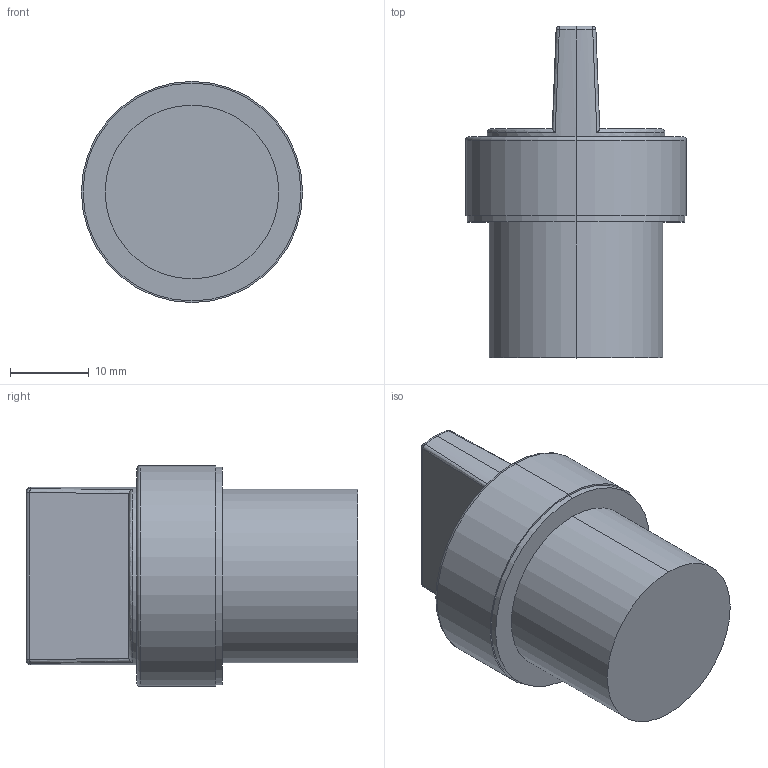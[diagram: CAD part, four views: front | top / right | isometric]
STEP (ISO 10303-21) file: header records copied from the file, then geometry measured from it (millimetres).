
FILE_DESCRIPTION (( 'STEP AP203' ), '1' );
FILE_NAME ('B3KL.STEP', '2012-09-05T10:47:05', ( 'schulung' ), ( 'Microsoft' ), 'SwSTEP 2.0', 'SolidWorks 2012', '' );
FILE_SCHEMA (( 'CONFIG_CONTROL_DESIGN' ));
Length unit declared in the file: millimetre
Products named in the file (1): B3KL
Bounding box: 28 x 42 x 28 mm (x, y, z)
Volume: 15152.6 mm3; surface area: 4081.5 mm2
Topology: 1 solids, 1 shells, 34 faces, 76 edges, 43 vertices
Faces by surface type: cylinder 10, plane 9, torus 7, bspline 4, sphere 4
Entity records: 1039 total; most frequent: CARTESIAN_POINT 250, DIRECTION 160, ORIENTED_EDGE 144, AXIS2_PLACEMENT_3D 73, EDGE_CURVE 72, VERTEX_POINT 43, CIRCLE 42, EDGE_LOOP 37
